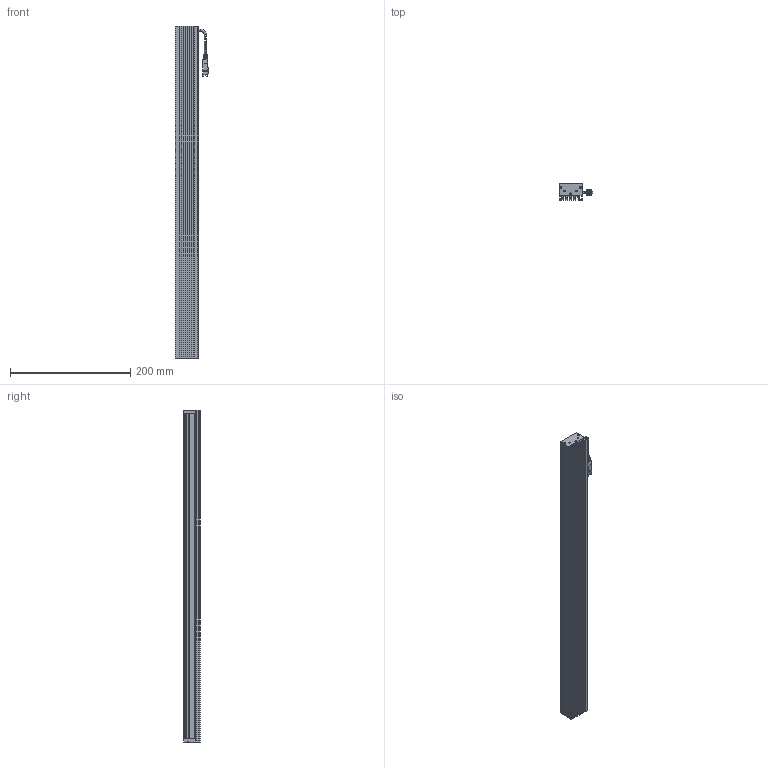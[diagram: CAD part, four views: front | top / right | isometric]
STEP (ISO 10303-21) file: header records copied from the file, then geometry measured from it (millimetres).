
FILE_DESCRIPTION (( 'STEP AP203' ), '1' );
FILE_NAME ('CK-BL55238.STEP', '2026-01-28T05:42:15', ( '' ), ( '' ), 'SwSTEP 2.0', 'SolidWorks 2022', '' );
FILE_SCHEMA (( 'CONFIG_CONTROL_DESIGN' ));
Length unit declared in the file: millimetre
Products named in the file (6): CK-BL55238; 十字沉头螺丝 M2x10; CK-BL55238-002A; CK55238-001A; 光源线; CK-BL55238-003A
Assembly tree (11 placements, depth 2):
  CK-BL55238
    CK55238-001A
    CK-BL55238-002A  x2
    CK-BL55238-003A
    光源线
    十字沉头螺丝 M2x10  x6
Bounding box: 55.84 x 27 x 552 mm (x, y, z)
Volume: 225552.9 mm3; surface area: 194481.4 mm2
Topology: 13 solids, 13 shells, 641 faces, 1692 edges, 1082 vertices
Faces by surface type: plane 353, cylinder 210, cone 46, bspline 32
Entity records: 16373 total; most frequent: CARTESIAN_POINT 3399, ORIENTED_EDGE 2598, DIRECTION 2515, EDGE_CURVE 1299, LINE 875, VECTOR 875, VERTEX_POINT 846, AXIS2_PLACEMENT_3D 820
